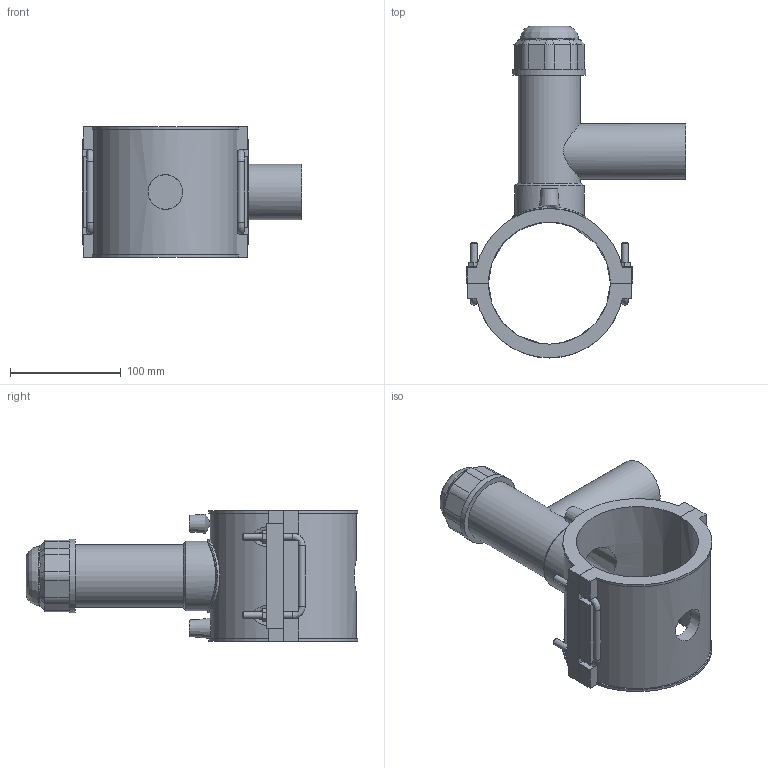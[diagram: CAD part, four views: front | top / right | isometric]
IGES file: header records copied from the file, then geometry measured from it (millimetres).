
Global section: file name: 496304110050.ipt; native system: Autodesk Inventor 2015; preprocessor: unknown; author: KIM; date: 20190124.130849; units: millimetre
Bounding box: 198 x 299.32 x 118 mm (x, y, z)
Volume: 839425.2 mm3; surface area: 200428 mm2
Topology: 2 solids, 2 shells, 192 faces, 494 edges, 322 vertices
Faces by surface type: plane 118, cylinder 34, revolution 20, cone 15, bspline 5
Full cylindrical faces by diameter (mm): 4 x2, 6 x10, 50 x1, 52.8 x1, 56.1 x1, 62.7 x1, 66 x2
